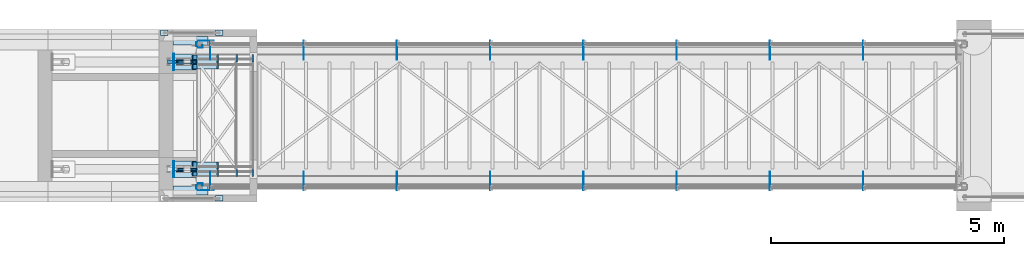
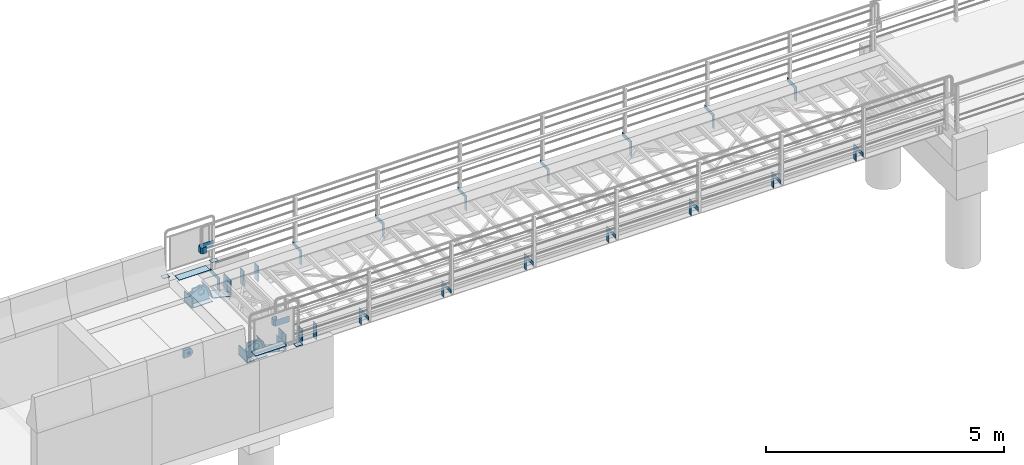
# One storey, part 28 of 31: 45 plates.
"""IFC2X3 building model written with IfcOpenShell, lengths in millimetres."""

from ifc_helpers import new_model, si_unit, frame, origin_with_axes, place, context, subcontext, project, spatial, faceted_brep, material, type_object, element, save


model = new_model("IFC2X3")

# Units and contexts
model_context = context("Model", 3, precision=1e-05, world=origin_with_axes())
body_context = subcontext(model_context, "Body", "Model", "MODEL_VIEW")
ifc_project = project(units=[si_unit("LENGTHUNIT", "METRE", prefix="MILLI"), si_unit("AREAUNIT", "SQUARE_METRE"), si_unit("VOLUMEUNIT", "CUBIC_METRE"), si_unit("MASSUNIT", "GRAM", prefix="KILO"), si_unit("TIMEUNIT", "SECOND"), si_unit("PLANEANGLEUNIT", "RADIAN"), si_unit("SOLIDANGLEUNIT", "STERADIAN"), si_unit("THERMODYNAMICTEMPERATUREUNIT", "DEGREE_CELSIUS"), si_unit("LUMINOUSINTENSITYUNIT", "LUMEN")], contexts=[model_context])

# Site, building, storey
site_placement = place(None, origin_with_axes())
site = spatial("IfcSite", under=ifc_project, at=site_placement, Name="Undefined", CompositionType="ELEMENT")
building_placement = place(site_placement, origin_with_axes())
building = spatial("IfcBuilding", under=site, at=building_placement, Name="Undefined", CompositionType="ELEMENT")
storey_placement = place(building_placement, origin_with_axes())
storey = spatial("IfcBuildingStorey", under=building, at=storey_placement, Name="Undefined", CompositionType="ELEMENT", Elevation=0.0)

# Plates
ifc_material_1 = material(Name="STEEL/S355J2+N")
plate_type_1 = type_object("IfcPlateType", Name="PL20*300", PredefinedType="NOTDEFINED")
plate_1_placement = place(storey_placement, frame((3009.58022876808, -150.0, 2.86691763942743), z_axis=(0.0, 1.0, 0.0), x_axis=(0.286691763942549, 0.0, -0.958022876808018)))
element("IfcPlate", 1, at=plate_1_placement, inside=storey, type_object=plate_type_1, material=ifc_material_1, Name="PLATE", context=body_context, shape_type="Brep", body=[
    faceted_brep([(21.920144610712, 10.0, 0.0), (27.9052159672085, -10.0000000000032, 0.0), (27.9052159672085, -10.0000000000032, 300.0), (21.920144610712, 10.0, 300.0), (337.179167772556, -10.0000000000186, 300.0), (325.678657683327, 9.99999999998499, 300.0), (325.678657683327, 9.99999999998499, 0.0), (337.179167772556, -10.0000000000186, 0.0)], [[[0, 1, 2, 3]], [[3, 2, 4, 5]], [[0, 3, 5, 6]], [[1, 0, 6, 7]], [[2, 1, 7, 4]], [[6, 5, 4, 7]]]),
])
plate_2_placement = place(storey_placement, frame((3107.23214016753, -149.999999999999, -325.544706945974), z_axis=(0.0, 1.0, 0.0), x_axis=(0.973420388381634, 0.0, -0.229025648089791)))
element("IfcPlate", 2, at=plate_2_placement, inside=storey, type_object=plate_type_1, material=ifc_material_1, Name="PLATE", context=body_context, shape_type="Brep", body=[
    faceted_brep([(-9.09494701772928e-13, -9.99999999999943, 0.0), (1.36424205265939e-12, 9.99999999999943, 0.0), (457.210596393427, 9.99999999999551, -4.94821961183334e-11), (452.505010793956, -10.0000000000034, -4.89706053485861e-11), (5.00222085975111e-11, -9.99999999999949, 299.999999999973), (452.505010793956, -10.0000000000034, 299.999999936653), (5.22959453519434e-11, 9.99999999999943, 299.999999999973), (457.210596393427, 9.99999999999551, 299.999999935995)], [[[0, 1, 2, 3]], [[4, 0, 3, 5]], [[6, 4, 5, 7]], [[3, 2, 7, 5]], [[1, 6, 7, 2]], [[0, 4, 6, 1]]]),
])
plate_3_placement = place(storey_placement, frame((3009.58022876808, 2150.0, 2.86691763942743), z_axis=(0.0, 1.0, 0.0), x_axis=(0.286691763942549, 0.0, -0.958022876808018)))
element("IfcPlate", 3, at=plate_3_placement, inside=storey, type_object=plate_type_1, material=ifc_material_1, Name="PLATE", context=body_context, shape_type="Brep", body=[
    faceted_brep([(21.920144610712, 10.0, 0.0), (27.9052159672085, -10.0000000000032, 0.0), (27.9052159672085, -10.0000000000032, 300.0), (21.920144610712, 10.0, 300.0), (337.179167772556, -10.0000000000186, 300.0), (325.678657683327, 9.99999999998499, 300.0), (325.678657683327, 9.99999999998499, 0.0), (337.179167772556, -10.0000000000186, 0.0)], [[[0, 1, 2, 3]], [[3, 2, 4, 5]], [[0, 3, 5, 6]], [[1, 0, 6, 7]], [[2, 1, 7, 4]], [[6, 5, 4, 7]]]),
])
plate_4_placement = place(storey_placement, frame((3107.23214016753, 2150.0, -325.544706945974), z_axis=(0.0, 1.0, 0.0), x_axis=(0.973420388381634, 0.0, -0.229025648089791)))
element("IfcPlate", 4, at=plate_4_placement, inside=storey, type_object=plate_type_1, material=ifc_material_1, Name="PLATE", context=body_context, shape_type="Brep", body=[
    faceted_brep([(-9.09494701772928e-13, -9.99999999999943, 0.0), (1.36424205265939e-12, 9.99999999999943, 0.0), (457.210596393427, 9.99999999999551, -4.94821961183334e-11), (452.505010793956, -10.0000000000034, -4.89706053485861e-11), (5.00222085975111e-11, -9.99999999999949, 299.999999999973), (452.505010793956, -10.0000000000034, 299.999999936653), (5.22959453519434e-11, 9.99999999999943, 299.999999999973), (457.210596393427, 9.99999999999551, 299.999999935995)], [[[0, 1, 2, 3]], [[4, 0, 3, 5]], [[6, 4, 5, 7]], [[3, 2, 7, 5]], [[1, 6, 7, 2]], [[0, 4, 6, 1]]]),
])
plate_type_2 = type_object("IfcPlateType", Name="PL74*205", PredefinedType="NOTDEFINED")
plate_5_placement = place(storey_placement, frame((2700.0, 2300.0, -1722.19), z_axis=(-1.0, 0.0, 0.0), x_axis=(0.0, 0.0, 1.0)))
element("IfcPlate", 5, at=plate_5_placement, inside=storey, type_object=plate_type_2, material=ifc_material_1, Name="SYLINDER", context=body_context, shape_type="Brep", body=[
    faceted_brep([(138.695181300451, -37.0, 84.6926627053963), (138.695181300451, 37.0, 84.6926627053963), (130.024271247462, 37.0, 71.7157287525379), (130.024271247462, -37.0, 71.7157287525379), (117.047337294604, 37.0, 63.0448186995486), (117.047337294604, -37.0, 63.0448186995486), (101.74, 37.0, 60.0), (101.74, -37.0, 60.0), (86.4326627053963, 37.0, 63.0448186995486), (86.4326627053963, -37.0, 63.0448186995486), (73.4557287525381, 37.0, 71.7157287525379), (73.4557287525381, -37.0, 71.7157287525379), (64.7848186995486, 37.0, 84.6926627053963), (64.7848186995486, -37.0, 84.6926627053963), (61.74, 37.0, 100.0), (61.74, -37.0, 100.0), (64.7848186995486, 37.0, 115.307337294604), (64.7848186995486, -37.0, 115.307337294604), (73.4557287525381, 37.0, 128.284271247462), (73.4557287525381, -37.0, 128.284271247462), (86.4326627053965, 37.0, 136.955181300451), (86.4326627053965, -37.0, 136.955181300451), (101.74, 37.0, 140.0), (101.74, -37.0, 140.0), (117.047337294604, 37.0, 136.955181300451), (117.047337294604, -37.0, 136.955181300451), (130.024271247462, 37.0, 128.284271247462), (130.024271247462, -37.0, 128.284271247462), (138.695181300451, 37.0, 115.307337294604), (138.695181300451, -37.0, 115.307337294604), (141.74, 37.0, 100.0), (141.74, -37.0, 100.0), (7.61204674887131, -37.0, 61.7316567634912), (29.2893218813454, -37.0, 29.2893218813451), (61.7316567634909, -37.0, 7.61204674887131), (100.0, -37.0, 0.0), (105.0, -37.0, 0.0), (143.268343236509, -37.0, 7.61204674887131), (175.710678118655, -37.0, 29.2893218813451), (197.387953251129, -37.0, 61.7316567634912), (205.0, -37.0, 100.0), (205.0, -37.0, 218.0), (0.0, -37.0, 218.0), (0.0, -37.0, 100.0), (0.0, 37.0, 100.0), (7.61204674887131, 37.0, 61.7316567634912), (29.2893218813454, 37.0, 29.2893218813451), (61.7316567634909, 37.0, 7.61204674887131), (100.0, 37.0, 0.0), (105.0, 37.0, 0.0), (143.268343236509, 37.0, 7.61204674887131), (175.710678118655, 37.0, 29.2893218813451), (197.387953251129, 37.0, 61.7316567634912), (205.0, 37.0, 100.0), (205.0, 37.0, 218.0), (0.0, 37.0, 218.0)], [[[0, 1, 2, 3]], [[3, 2, 4, 5]], [[5, 4, 6, 7]], [[7, 6, 8, 9]], [[9, 8, 10, 11]], [[11, 10, 12, 13]], [[13, 12, 14, 15]], [[15, 14, 16, 17]], [[17, 16, 18, 19]], [[19, 18, 20, 21]], [[21, 20, 22, 23]], [[23, 22, 24, 25]], [[25, 24, 26, 27]], [[27, 26, 28, 29]], [[29, 28, 30, 31]], [[31, 30, 1, 0]], [[32, 33, 34, 35, 36, 37, 38, 39, 40, 41, 42, 43], [3, 5, 7, 9, 11, 13, 15, 17, 19, 21, 23, 25, 27, 29, 31, 0]], [[32, 43, 44, 45]], [[33, 32, 45, 46]], [[34, 33, 46, 47]], [[35, 34, 47, 48]], [[36, 35, 48, 49]], [[37, 36, 49, 50]], [[38, 37, 50, 51]], [[39, 38, 51, 52]], [[40, 39, 52, 53]], [[41, 40, 53, 54]], [[42, 41, 54, 55]], [[43, 42, 55, 44]], [[54, 53, 52, 51, 50, 49, 48, 47, 46, 45, 44, 55], [26, 24, 22, 20, 18, 16, 14, 12, 10, 8, 6, 4, 2, 1, 30, 28]]]),
])
plate_type_3 = type_object("IfcPlateType", Name="PL20*350", PredefinedType="NOTDEFINED")
for number, where, z_axis, x_axis in (
    (6, (2600.0, -175.0, -390.0), (0.0, 1.0, 0.0), (1.0, 0.0, 0.0)),
    (7, (2600.0, 2125.0, -390.0), (0.0, 1.0, 0.0), (1.0, 0.0, 0.0)),
):
    element("IfcPlate", number, at=place(storey_placement, frame(where, z_axis=z_axis, x_axis=x_axis)), inside=storey, type_object=plate_type_3, material=ifc_material_1, Name="INNFESTING", context=body_context, shape_type="Brep", body=[
        faceted_brep([(-9.09494701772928e-13, -9.99999999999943, 0.0), (0.0, -10.0, 350.0), (0.0, 10.0, 350.0), (1.36424205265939e-12, 9.99999999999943, 0.0), (500.0, -10.0, 350.0), (500.0, 10.0, 350.0), (500.0, -10.0, 0.0), (500.0, 10.0, 0.0)], [[[0, 1, 2, 3]], [[1, 4, 5, 2]], [[4, 6, 7, 5]], [[6, 0, 3, 7]], [[5, 7, 3, 2]], [[6, 4, 1, 0]]]),
    ])
plate_type_4 = type_object("IfcPlateType", Name="PL40*291", PredefinedType="NOTDEFINED")
for number, where, z_axis, x_axis, name in (
    (8, (3093.36938884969, 0.0, -312.007604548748), (-0.958022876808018, 0.0, -0.286691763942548), (-0.286691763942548, 0.0, 0.958022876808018), "PLATE"),
    (9, (3093.36938884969, 2300.0, -312.007604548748), (-0.958022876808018, 0.0, -0.286691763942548), (-0.286691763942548, 0.0, 0.958022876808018), "PLATE"),
):
    element("IfcPlate", number, at=place(storey_placement, frame(where, z_axis=z_axis, x_axis=x_axis)), inside=storey, type_object=plate_type_4, material=ifc_material_1, Name=name, context=body_context, shape_type="Brep", body=[
        faceted_brep([(0.0, -20.0, -4.54747350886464e-13), (201.444360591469, -20.0, 350.322479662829), (201.444360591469, 20.0, 350.322479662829), (0.0, 20.0, -4.54747350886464e-13), (391.56770645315, -20.0, 293.427390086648), (391.56770645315, 20.0, 293.427390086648), (303.758513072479, -20.0, 3.86535248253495e-11), (303.758513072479, 20.0, 3.86535248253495e-11)], [[[0, 1, 2, 3]], [[1, 4, 5, 2]], [[4, 6, 7, 5]], [[6, 0, 3, 7]], [[5, 7, 3, 2]], [[6, 4, 1, 0]]]),
    ])
plate_type_5 = type_object("IfcPlateType", Name="PL10*190", PredefinedType="NOTDEFINED")
for number, where, z_axis, x_axis in (
    (10, (2600.0, -360.0, 5.0), (1.0, 0.0, 0.0), (0.0, -1.0, 0.0)),
    (11, (2600.0, 2850.0, 5.0), (1.0, 0.0, 0.0), (0.0, -1.0, 0.0)),
):
    element("IfcPlate", number, at=place(storey_placement, frame(where, z_axis=z_axis, x_axis=x_axis)), inside=storey, type_object=plate_type_5, material=ifc_material_1, Name="OVERGANGSPLATE", context=body_context, shape_type="Brep", body=[
        faceted_brep([(0.0, -5.0, 0.0), (0.0, -5.0, 750.0), (0.0, 5.0, 750.0), (0.0, 5.0, 0.0), (190.0, -5.0, 750.0), (190.0, 5.0, 750.0), (190.0, -5.0, 0.0), (190.0, 5.0, 0.0)], [[[0, 1, 2, 3]], [[1, 4, 5, 2]], [[4, 6, 7, 5]], [[6, 0, 3, 7]], [[5, 7, 3, 2]], [[6, 4, 1, 0]]]),
    ])
plate_type_6 = type_object("IfcPlateType", Name="PL155*150", PredefinedType="NOTDEFINED")
for number, where, z_axis, x_axis in (
    (12, (3225.0, -355.0, 600.5), (1.0, 0.0, 0.0), (0.0, 1.0, 0.0)),
    (13, (3225.0, 2655.0, 600.5), (1.0, 0.0, 0.0), (0.0, -1.0, 0.0)),
):
    element("IfcPlate", number, at=place(storey_placement, frame(where, z_axis=z_axis, x_axis=x_axis)), inside=storey, type_object=plate_type_6, material=ifc_material_1, Name="FØRINGSSKINNE", context=body_context, shape_type="Brep", body=[
        faceted_brep([(0.0, -77.5, 0.0), (0.0, -77.5, 5.0), (0.0, 77.5, 5.0), (0.0, 77.5, 0.0), (50.0000001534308, -77.5, 5.0), (50.0000001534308, 77.5, 5.0), (50.0, -77.5, -90.0000050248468), (50.0, 77.5, -90.0000050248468), (14.9997236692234, -77.5, -125.000281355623), (14.9997236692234, 77.5, -125.000281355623), (-64.9697186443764, -77.5, -125.000276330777), (-64.9697186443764, 77.5, -125.000276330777), (-100.0, -77.5, -89.969994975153), (-100.0, 77.5, -89.969994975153), (-100.0, -77.5, 250.000005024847), (-100.0, 77.5, 250.000005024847), (-95.0, -77.5, 250.000005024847), (-95.0, 77.5, 250.000005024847), (-95.0, -77.5, -87.8899949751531), (-95.0, 77.5, -87.8899949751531), (-62.889998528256, -77.5, -119.999996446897), (-62.889998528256, 77.5, -119.999996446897), (12.930008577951, -77.5, -119.999996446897), (12.930008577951, 77.5, -119.999996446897), (45.0, -77.5, -87.930005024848), (45.0, 77.5, -87.930005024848), (45.0, -77.5, 0.0), (45.0, 77.5, 0.0)], [[[0, 1, 2, 3]], [[1, 4, 5, 2]], [[4, 6, 7, 5]], [[6, 8, 9, 7]], [[8, 10, 11, 9]], [[10, 12, 13, 11]], [[12, 14, 15, 13]], [[14, 16, 17, 15]], [[16, 18, 19, 17]], [[18, 20, 21, 19]], [[20, 22, 23, 21]], [[22, 24, 25, 23]], [[24, 26, 27, 25]], [[26, 0, 3, 27]], [[5, 7, 9, 11, 13, 15, 17, 19, 21, 23, 25, 27, 3, 2]], [[26, 24, 22, 20, 18, 16, 14, 12, 10, 8, 6, 4, 1, 0]]]),
    ])
plate_type_7 = type_object("IfcPlateType", Name="PL15*120", PredefinedType="NOTDEFINED")
plate_6_placement = place(storey_placement, frame((3504.80600881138, -565.00000013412, 7.5), z_axis=(0.999999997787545, 6.65199999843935e-05, 0.0), x_axis=(6.65199999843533e-05, -0.999999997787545, 0.0)))
element("IfcPlate", 14, at=plate_6_placement, inside=storey, type_object=plate_type_7, material=ifc_material_1, Name="LKREKKVERK", context=body_context, shape_type="Brep", body=[
    faceted_brep([(1.13686837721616e-13, -7.5, 0.0), (0.0106432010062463, -7.5, 159.999999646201), (0.0106432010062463, 7.5, 159.999999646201), (1.13686837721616e-13, 7.5, 0.0), (120.010643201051, -7.5, 159.999999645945), (120.010643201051, 7.5, 159.999999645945), (120.000000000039, -7.5, -1.04591890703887e-11), (120.000000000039, 7.5, -1.04591890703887e-11)], [[[0, 1, 2, 3]], [[1, 4, 5, 2]], [[4, 6, 7, 5]], [[6, 0, 3, 7]], [[5, 7, 3, 2]], [[6, 4, 1, 0]]]),
])
ifc_material_2 = material(Name="STEEL/S235JR")
for number, where, z_axis, x_axis in (
    (15, (2329.65600881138, 2984.99999986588, 7.5), (0.999999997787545, 6.65199999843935e-05, 0.0), (6.65199999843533e-05, -0.999999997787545, 0.0)),
    (16, (3504.80600881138, 2984.99999986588, 7.5), (0.999999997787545, 6.65199999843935e-05, 0.0), (6.65199999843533e-05, -0.999999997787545, 0.0)),
):
    element("IfcPlate", number, at=place(storey_placement, frame(where, z_axis=z_axis, x_axis=x_axis)), inside=storey, type_object=plate_type_7, material=ifc_material_2, Name="LKREKKVERK", context=body_context, shape_type="Brep", body=[
        faceted_brep([(1.13686837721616e-13, -7.5, 0.0), (0.0106432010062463, -7.5, 159.999999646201), (0.0106432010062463, 7.5, 159.999999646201), (1.13686837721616e-13, 7.5, 0.0), (120.010643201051, -7.5, 159.999999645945), (120.010643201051, 7.5, 159.999999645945), (120.000000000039, -7.5, -1.04591890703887e-11), (120.000000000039, 7.5, -1.04591890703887e-11)], [[[0, 1, 2, 3]], [[1, 4, 5, 2]], [[4, 6, 7, 5]], [[6, 0, 3, 7]], [[5, 7, 3, 2]], [[6, 4, 1, 0]]]),
    ])
plate_type_8 = type_object("IfcPlateType", Name="PL20*355", PredefinedType="NOTDEFINED")
plate_7_placement = place(storey_placement, frame((2620.0, -42.5, -150.0), z_axis=(1.0, 0.0, 0.0), x_axis=(0.0, 0.0, -1.0)))
element("IfcPlate", 17, at=plate_7_placement, inside=storey, type_object=plate_type_8, material=ifc_material_1, Name="INNFESTING", context=body_context, shape_type="Brep", body=[
    faceted_brep([(72.4444369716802, -10.0, 260.588571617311), (72.4444369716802, 10.0, 260.588571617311), (64.951905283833, 10.0, 242.5), (64.951905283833, -10.0, 242.5), (53.0330085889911, 10.0, 226.966991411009), (53.0330085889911, -10.0, 226.966991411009), (37.5000000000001, 10.0, 215.048094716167), (37.5000000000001, -10.0, 215.048094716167), (19.4114283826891, 10.0, 207.55556302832), (19.4114283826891, -10.0, 207.55556302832), (5.6843418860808e-14, 10.0, 205.0), (5.6843418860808e-14, -10.0, 205.0), (-19.4114283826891, 10.0, 207.55556302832), (-19.4114283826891, -10.0, 207.55556302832), (-37.5, 10.0, 215.048094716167), (-37.5, -10.0, 215.048094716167), (-53.033008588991, 10.0, 226.966991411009), (-53.033008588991, -10.0, 226.966991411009), (-64.9519052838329, 10.0, 242.5), (-64.9519052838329, -10.0, 242.5), (-72.4444369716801, 10.0, 260.588571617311), (-72.4444369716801, -10.0, 260.588571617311), (-74.9999999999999, 10.0, 280.0), (-74.9999999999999, -10.0, 280.0), (-72.44443697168, 10.0, 299.411428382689), (-72.44443697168, -10.0, 299.411428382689), (-64.9519052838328, 10.0, 317.5), (-64.9519052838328, -10.0, 317.5), (-53.033008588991, 10.0, 333.033008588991), (-53.033008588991, -10.0, 333.033008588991), (-37.4999999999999, 10.0, 344.951905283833), (-37.4999999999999, -10.0, 344.951905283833), (-19.411428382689, 10.0, 352.44443697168), (-19.411428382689, -10.0, 352.44443697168), (5.6843418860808e-14, 10.0, 355.0), (5.6843418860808e-14, -10.0, 355.0), (19.4114283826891, 10.0, 352.44443697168), (19.4114283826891, -10.0, 352.44443697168), (37.5000000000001, 10.0, 344.951905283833), (37.5000000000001, -10.0, 344.951905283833), (53.0330085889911, 10.0, 333.033008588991), (53.0330085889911, -10.0, 333.033008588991), (64.951905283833, 10.0, 317.5), (64.951905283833, -10.0, 317.5), (72.4444369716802, 10.0, 299.411428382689), (72.4444369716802, -10.0, 299.411428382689), (75.0000000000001, 10.0, 280.0), (75.0000000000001, -10.0, 280.0), (230.0, -10.0, 0.0), (230.0, -10.0, 480.0), (-36.03196229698, -10.0, 399.489039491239), (-83.0624582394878, -10.0, 373.102368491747), (-114.600655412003, -10.0, 329.359185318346), (-124.776666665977, -10.0, 276.40096829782), (-111.696533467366, -10.0, 224.084297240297), (-9.09494701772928e-13, -9.99999999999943, 0.0), (1.36424205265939e-12, 9.99999999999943, 0.0), (230.0, 10.0, 0.0), (230.0, 10.0, 480.0), (-36.03196229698, 10.0, 399.489039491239), (-83.0624582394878, 10.0, 373.102368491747), (-114.600655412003, 10.0, 329.359185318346), (-124.776666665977, 10.0, 276.40096829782), (-111.696533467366, 10.0, 224.084297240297)], [[[0, 1, 2, 3]], [[3, 2, 4, 5]], [[5, 4, 6, 7]], [[7, 6, 8, 9]], [[9, 8, 10, 11]], [[11, 10, 12, 13]], [[13, 12, 14, 15]], [[15, 14, 16, 17]], [[17, 16, 18, 19]], [[19, 18, 20, 21]], [[21, 20, 22, 23]], [[23, 22, 24, 25]], [[25, 24, 26, 27]], [[27, 26, 28, 29]], [[29, 28, 30, 31]], [[31, 30, 32, 33]], [[33, 32, 34, 35]], [[35, 34, 36, 37]], [[37, 36, 38, 39]], [[39, 38, 40, 41]], [[41, 40, 42, 43]], [[43, 42, 44, 45]], [[45, 44, 46, 47]], [[47, 46, 1, 0]], [[48, 49, 50, 51, 52, 53, 54, 55], [3, 5, 7, 9, 11, 13, 15, 17, 19, 21, 23, 25, 27, 29, 31, 33, 35, 37, 39, 41, 43, 45, 47, 0]], [[48, 55, 56, 57]], [[49, 48, 57, 58]], [[50, 49, 58, 59]], [[51, 50, 59, 60]], [[52, 51, 60, 61]], [[53, 52, 61, 62]], [[54, 53, 62, 63]], [[55, 54, 63, 56]], [[62, 61, 60, 59, 58, 57, 56, 63], [42, 40, 38, 36, 34, 32, 30, 28, 26, 24, 22, 20, 18, 16, 14, 12, 10, 8, 6, 4, 2, 1, 46, 44]]]),
])
plate_8_placement = place(storey_placement, frame((2620.0, 2342.5, -150.0), z_axis=(1.0, 0.0, 0.0), x_axis=(0.0, 0.0, -1.0)))
element("IfcPlate", 18, at=plate_8_placement, inside=storey, type_object=plate_type_8, material=ifc_material_1, Name="INNFESTING", context=body_context, shape_type="Brep", body=[
    faceted_brep([(72.4444369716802, -10.0, 260.588571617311), (72.4444369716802, 10.0, 260.588571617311), (64.951905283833, 10.0, 242.5), (64.951905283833, -10.0, 242.5), (53.0330085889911, 10.0, 226.966991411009), (53.0330085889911, -10.0, 226.966991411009), (37.5000000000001, 10.0, 215.048094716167), (37.5000000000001, -10.0, 215.048094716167), (19.4114283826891, 10.0, 207.55556302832), (19.4114283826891, -10.0, 207.55556302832), (5.6843418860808e-14, 10.0, 205.0), (5.6843418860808e-14, -10.0, 205.0), (-19.4114283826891, 10.0, 207.55556302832), (-19.4114283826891, -10.0, 207.55556302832), (-37.5, 10.0, 215.048094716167), (-37.5, -10.0, 215.048094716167), (-53.033008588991, 10.0, 226.966991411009), (-53.033008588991, -10.0, 226.966991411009), (-64.9519052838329, 10.0, 242.5), (-64.9519052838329, -10.0, 242.5), (-72.4444369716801, 10.0, 260.588571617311), (-72.4444369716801, -10.0, 260.588571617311), (-74.9999999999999, 10.0, 280.0), (-74.9999999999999, -10.0, 280.0), (-72.44443697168, 10.0, 299.411428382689), (-72.44443697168, -10.0, 299.411428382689), (-64.9519052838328, 10.0, 317.5), (-64.9519052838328, -10.0, 317.5), (-53.033008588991, 10.0, 333.033008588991), (-53.033008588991, -10.0, 333.033008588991), (-37.4999999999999, 10.0, 344.951905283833), (-37.4999999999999, -10.0, 344.951905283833), (-19.411428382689, 10.0, 352.44443697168), (-19.411428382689, -10.0, 352.44443697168), (5.6843418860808e-14, 10.0, 355.0), (5.6843418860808e-14, -10.0, 355.0), (19.4114283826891, 10.0, 352.44443697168), (19.4114283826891, -10.0, 352.44443697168), (37.5000000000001, 10.0, 344.951905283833), (37.5000000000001, -10.0, 344.951905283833), (53.0330085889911, 10.0, 333.033008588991), (53.0330085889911, -10.0, 333.033008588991), (64.951905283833, 10.0, 317.5), (64.951905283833, -10.0, 317.5), (72.4444369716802, 10.0, 299.411428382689), (72.4444369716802, -10.0, 299.411428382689), (75.0000000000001, 10.0, 280.0), (75.0000000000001, -10.0, 280.0), (230.0, -10.0, 0.0), (230.0, -10.0, 480.0), (-36.03196229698, -10.0, 399.489039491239), (-83.0624582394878, -10.0, 373.102368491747), (-114.600655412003, -10.0, 329.359185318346), (-124.776666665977, -10.0, 276.40096829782), (-111.696533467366, -10.0, 224.084297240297), (-9.09494701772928e-13, -9.99999999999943, 0.0), (1.36424205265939e-12, 9.99999999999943, 0.0), (230.0, 10.0, 0.0), (230.0, 10.0, 480.0), (-36.03196229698, 10.0, 399.489039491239), (-83.0624582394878, 10.0, 373.102368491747), (-114.600655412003, 10.0, 329.359185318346), (-124.776666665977, 10.0, 276.40096829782), (-111.696533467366, 10.0, 224.084297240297)], [[[0, 1, 2, 3]], [[3, 2, 4, 5]], [[5, 4, 6, 7]], [[7, 6, 8, 9]], [[9, 8, 10, 11]], [[11, 10, 12, 13]], [[13, 12, 14, 15]], [[15, 14, 16, 17]], [[17, 16, 18, 19]], [[19, 18, 20, 21]], [[21, 20, 22, 23]], [[23, 22, 24, 25]], [[25, 24, 26, 27]], [[27, 26, 28, 29]], [[29, 28, 30, 31]], [[31, 30, 32, 33]], [[33, 32, 34, 35]], [[35, 34, 36, 37]], [[37, 36, 38, 39]], [[39, 38, 40, 41]], [[41, 40, 42, 43]], [[43, 42, 44, 45]], [[45, 44, 46, 47]], [[47, 46, 1, 0]], [[48, 49, 50, 51, 52, 53, 54, 55], [3, 5, 7, 9, 11, 13, 15, 17, 19, 21, 23, 25, 27, 29, 31, 33, 35, 37, 39, 41, 43, 45, 47, 0]], [[48, 55, 56, 57]], [[49, 48, 57, 58]], [[50, 49, 58, 59]], [[51, 50, 59, 60]], [[52, 51, 60, 61]], [[53, 52, 61, 62]], [[54, 53, 62, 63]], [[55, 54, 63, 56]], [[62, 61, 60, 59, 58, 57, 56, 63], [42, 40, 38, 36, 34, 32, 30, 28, 26, 24, 22, 20, 18, 16, 14, 12, 10, 8, 6, 4, 2, 1, 46, 44]]]),
])
plate_9_placement = place(storey_placement, frame((2620.0, 2257.5, -150.0), z_axis=(1.0, 0.0, 0.0), x_axis=(0.0, 0.0, -1.0)))
element("IfcPlate", 19, at=plate_9_placement, inside=storey, type_object=plate_type_8, material=ifc_material_1, Name="INNFESTING", context=body_context, shape_type="Brep", body=[
    faceted_brep([(72.4444369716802, -10.0, 260.588571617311), (72.4444369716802, 10.0, 260.588571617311), (64.951905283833, 10.0, 242.5), (64.951905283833, -10.0, 242.5), (53.0330085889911, 10.0, 226.966991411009), (53.0330085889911, -10.0, 226.966991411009), (37.5000000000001, 10.0, 215.048094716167), (37.5000000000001, -10.0, 215.048094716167), (19.4114283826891, 10.0, 207.55556302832), (19.4114283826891, -10.0, 207.55556302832), (5.6843418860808e-14, 10.0, 205.0), (5.6843418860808e-14, -10.0, 205.0), (-19.4114283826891, 10.0, 207.55556302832), (-19.4114283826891, -10.0, 207.55556302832), (-37.5, 10.0, 215.048094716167), (-37.5, -10.0, 215.048094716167), (-53.033008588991, 10.0, 226.966991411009), (-53.033008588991, -10.0, 226.966991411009), (-64.9519052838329, 10.0, 242.5), (-64.9519052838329, -10.0, 242.5), (-72.4444369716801, 10.0, 260.588571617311), (-72.4444369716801, -10.0, 260.588571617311), (-74.9999999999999, 10.0, 280.0), (-74.9999999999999, -10.0, 280.0), (-72.44443697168, 10.0, 299.411428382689), (-72.44443697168, -10.0, 299.411428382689), (-64.9519052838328, 10.0, 317.5), (-64.9519052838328, -10.0, 317.5), (-53.033008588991, 10.0, 333.033008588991), (-53.033008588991, -10.0, 333.033008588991), (-37.4999999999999, 10.0, 344.951905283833), (-37.4999999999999, -10.0, 344.951905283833), (-19.411428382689, 10.0, 352.44443697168), (-19.411428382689, -10.0, 352.44443697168), (5.6843418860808e-14, 10.0, 355.0), (5.6843418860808e-14, -10.0, 355.0), (19.4114283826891, 10.0, 352.44443697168), (19.4114283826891, -10.0, 352.44443697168), (37.5000000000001, 10.0, 344.951905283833), (37.5000000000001, -10.0, 344.951905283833), (53.0330085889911, 10.0, 333.033008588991), (53.0330085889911, -10.0, 333.033008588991), (64.951905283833, 10.0, 317.5), (64.951905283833, -10.0, 317.5), (72.4444369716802, 10.0, 299.411428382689), (72.4444369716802, -10.0, 299.411428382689), (75.0000000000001, 10.0, 280.0), (75.0000000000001, -10.0, 280.0), (230.0, -10.0, 0.0), (230.0, -10.0, 480.0), (-36.03196229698, -10.0, 399.489039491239), (-83.0624582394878, -10.0, 373.102368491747), (-114.600655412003, -10.0, 329.359185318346), (-124.776666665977, -10.0, 276.40096829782), (-111.696533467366, -10.0, 224.084297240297), (-9.09494701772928e-13, -9.99999999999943, 0.0), (1.36424205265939e-12, 9.99999999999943, 0.0), (230.0, 10.0, 0.0), (230.0, 10.0, 480.0), (-36.03196229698, 10.0, 399.489039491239), (-83.0624582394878, 10.0, 373.102368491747), (-114.600655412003, 10.0, 329.359185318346), (-124.776666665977, 10.0, 276.40096829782), (-111.696533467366, 10.0, 224.084297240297)], [[[0, 1, 2, 3]], [[3, 2, 4, 5]], [[5, 4, 6, 7]], [[7, 6, 8, 9]], [[9, 8, 10, 11]], [[11, 10, 12, 13]], [[13, 12, 14, 15]], [[15, 14, 16, 17]], [[17, 16, 18, 19]], [[19, 18, 20, 21]], [[21, 20, 22, 23]], [[23, 22, 24, 25]], [[25, 24, 26, 27]], [[27, 26, 28, 29]], [[29, 28, 30, 31]], [[31, 30, 32, 33]], [[33, 32, 34, 35]], [[35, 34, 36, 37]], [[37, 36, 38, 39]], [[39, 38, 40, 41]], [[41, 40, 42, 43]], [[43, 42, 44, 45]], [[45, 44, 46, 47]], [[47, 46, 1, 0]], [[48, 49, 50, 51, 52, 53, 54, 55], [3, 5, 7, 9, 11, 13, 15, 17, 19, 21, 23, 25, 27, 29, 31, 33, 35, 37, 39, 41, 43, 45, 47, 0]], [[48, 55, 56, 57]], [[49, 48, 57, 58]], [[50, 49, 58, 59]], [[51, 50, 59, 60]], [[52, 51, 60, 61]], [[53, 52, 61, 62]], [[54, 53, 62, 63]], [[55, 54, 63, 56]], [[62, 61, 60, 59, 58, 57, 56, 63], [42, 40, 38, 36, 34, 32, 30, 28, 26, 24, 22, 20, 18, 16, 14, 12, 10, 8, 6, 4, 2, 1, 46, 44]]]),
])
plate_type_9 = type_object("IfcPlateType", Name="PL20*230", PredefinedType="NOTDEFINED")
for number, where, z_axis, x_axis in (
    (20, (2610.0, -175.0, -150.0), (0.0, 1.0, 0.0), (0.0, 0.0, -1.0)),
    (21, (2610.0, 2125.0, -150.0), (0.0, 1.0, 0.0), (0.0, 0.0, -1.0)),
):
    element("IfcPlate", number, at=place(storey_placement, frame(where, z_axis=z_axis, x_axis=x_axis)), inside=storey, type_object=plate_type_9, material=ifc_material_1, Name="INNFESTING", context=body_context, shape_type="Brep", body=[
        faceted_brep([(-9.09494701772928e-13, -9.99999999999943, 0.0), (0.0, -10.0, 350.0), (0.0, 10.0, 350.0), (1.36424205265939e-12, 9.99999999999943, 0.0), (230.0, -10.0, 350.0), (230.0, 10.0, 350.0), (230.0, -10.0, 0.0), (230.0, 10.0, 0.0)], [[[0, 1, 2, 3]], [[1, 4, 5, 2]], [[4, 6, 7, 5]], [[6, 0, 3, 7]], [[5, 7, 3, 2]], [[6, 4, 1, 0]]]),
    ])
plate_type_10 = type_object("IfcPlateType", Name="PL5*363", PredefinedType="NOTDEFINED")
plate_10_placement = place(storey_placement, frame((3397.5, -50.0, -419.0), z_axis=(0.0, -0.00445724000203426, 0.999990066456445), x_axis=(0.0, -0.999990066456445, -0.00445724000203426)))
element("IfcPlate", 22, at=plate_10_placement, inside=storey, type_object=plate_type_10, material=ifc_material_1, Name="PLATE", context=body_context, shape_type="Brep", body=[
    faceted_brep([(-1.77398151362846, -2.5, 397.996046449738), (398.222045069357, -2.5, 399.778942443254), (398.222045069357, 2.5, 399.778942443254), (-1.77398151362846, 2.5, 397.996046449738), (398.667769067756, -2.5, 299.779935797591), (398.667769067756, 2.5, 299.779935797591), (98.6707491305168, -2.5, 298.442763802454), (98.6707491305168, 2.5, 298.442763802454), (99.8384418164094, -2.5, 36.4687415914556), (99.8436854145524, 2.5, 35.2923306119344), (-0.155321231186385, 2.5, 34.8466066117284), (-0.160564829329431, -2.5, 36.0230175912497)], [[[0, 1, 2, 3]], [[1, 4, 5, 2]], [[4, 6, 7, 5]], [[7, 6, 8, 9]], [[3, 2, 5, 7, 9, 10]], [[0, 3, 10, 11]], [[6, 4, 1, 0, 11, 8]], [[10, 9, 8, 11]]]),
])
plate_type_11 = type_object("IfcPlateType", Name="PL5*398", PredefinedType="NOTDEFINED")
for number, where, z_axis, x_axis, name in (
    (23, (5397.5, -50.0, -419.0), (0.0, -0.00445724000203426, 0.999990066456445), (0.0, -0.999990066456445, -0.00445724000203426), "PLATE"),
    (24, (7397.5, -50.0, -419.0), (0.0, -0.00445724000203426, 0.999990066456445), (0.0, -0.999990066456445, -0.00445724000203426), "PLATE"),
    (25, (9397.5, -50.0, -419.0), (0.0, -0.00445724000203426, 0.999990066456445), (0.0, -0.999990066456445, -0.00445724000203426), "PLATE"),
    (26, (11397.5, -50.0, -419.0), (0.0, -0.00445724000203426, 0.999990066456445), (0.0, -0.999990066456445, -0.00445724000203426), "PLATE"),
    (27, (13397.5, -50.0, -419.0), (0.0, -0.00445724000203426, 0.999990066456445), (0.0, -0.999990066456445, -0.00445724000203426), "PLATE"),
    (28, (15397.5, -50.0, -419.0), (0.0, -0.00445724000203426, 0.999990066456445), (0.0, -0.999990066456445, -0.00445724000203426), "PLATE"),
    (29, (17397.5, -50.0, -419.0), (0.0, -0.00445724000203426, 0.999990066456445), (0.0, -0.999990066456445, -0.00445724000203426), "PLATE"),
    (30, (5397.5, 2350.0, -419.0), (0.0, 0.00445724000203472, 0.999990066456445), (0.0, 0.999990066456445, -0.00445724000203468), "PLATE"),
    (31, (7397.5, 2350.0, -419.0), (0.0, 0.00445724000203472, 0.999990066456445), (0.0, 0.999990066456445, -0.00445724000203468), "PLATE"),
    (32, (9397.5, 2350.0, -419.0), (0.0, 0.00445724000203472, 0.999990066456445), (0.0, 0.999990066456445, -0.00445724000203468), "PLATE"),
    (33, (11397.5, 2350.0, -419.0), (0.0, 0.00445724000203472, 0.999990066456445), (0.0, 0.999990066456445, -0.00445724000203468), "PLATE"),
    (34, (13397.5, 2350.0, -419.0), (0.0, 0.00445724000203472, 0.999990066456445), (0.0, 0.999990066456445, -0.00445724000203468), "PLATE"),
    (35, (15397.5, 2350.0, -419.0), (0.0, 0.00445724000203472, 0.999990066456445), (0.0, 0.999990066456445, -0.00445724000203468), "PLATE"),
    (36, (17397.5, 2350.0, -419.0), (0.0, 0.00445724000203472, 0.999990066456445), (0.0, 0.999990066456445, -0.00445724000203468), "PLATE"),
):
    element("IfcPlate", number, at=place(storey_placement, frame(where, z_axis=z_axis, x_axis=x_axis)), inside=storey, type_object=plate_type_11, material=ifc_material_1, Name=name, context=body_context, shape_type="Brep", body=[
        faceted_brep([(-1.77398151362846, -2.5, 397.996046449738), (398.222045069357, -2.5, 399.778942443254), (398.222045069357, 2.5, 399.778942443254), (-1.77398151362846, 2.5, 397.996046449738), (398.667769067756, -2.5, 299.779935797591), (398.667769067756, 2.5, 299.779935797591), (98.6707491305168, -2.5, 298.442763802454), (98.6707491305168, 2.5, 298.442763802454), (99.999006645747, -2.5, 0.445723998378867), (99.999006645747, 2.5, 0.445723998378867), (0.0, -2.5, -5.6843418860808e-14), (0.0, 2.5, -5.6843418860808e-14)], [[[0, 1, 2, 3]], [[1, 4, 5, 2]], [[4, 6, 7, 5]], [[6, 8, 9, 7]], [[8, 10, 11, 9]], [[10, 10, 0, 3, 11]], [[2, 5, 7, 9, 11, 3]], [[10, 8, 6, 4, 1, 0, 10]]]),
    ])
plate_type_12 = type_object("IfcPlateType", Name="PL5*362", PredefinedType="NOTDEFINED")
plate_11_placement = place(storey_placement, frame((3397.5, 2350.0, -383.0), z_axis=(0.0, 0.00445724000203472, 0.999990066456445), x_axis=(0.0, 0.999990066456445, -0.00445724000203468)))
element("IfcPlate", 37, at=plate_11_placement, inside=storey, type_object=plate_type_12, material=ifc_material_1, Name="PLATE", context=body_context, shape_type="Brep", body=[
    faceted_brep([(0.0, -2.5, -5.6843418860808e-14), (-1.61352087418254, -2.5, 361.996404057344), (-1.61352087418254, 2.5, 361.996404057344), (0.0, 2.5, -5.6843418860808e-14), (398.382505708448, -2.5, 363.779300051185), (398.382505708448, 2.5, 363.779300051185), (398.828229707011, -2.5, 263.780293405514), (398.828229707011, 2.5, 263.780293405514), (98.8312097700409, -2.5, 262.443121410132), (98.8312097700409, 2.5, 262.443121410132), (99.999006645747, -2.5, 0.445723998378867), (99.999006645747, 2.5, 0.445723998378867)], [[[0, 1, 2, 3]], [[1, 4, 5, 2]], [[4, 6, 7, 5]], [[6, 8, 9, 7]], [[8, 10, 11, 9]], [[10, 0, 3, 11]], [[5, 7, 9, 11, 3, 2]], [[10, 8, 6, 4, 1, 0]]]),
])
plate_type_13 = type_object("IfcPlateType", Name="PL20*144", PredefinedType="NOTDEFINED")
for number, where, z_axis, x_axis, name in (
    (38, (3960.0, 2305.75, -21.0), (0.0, 1.0, 0.0), (0.0, 0.0, -1.0), "PLATE"),
    (39, (4310.0, 2305.75, -21.0), (0.0, 1.0, 0.0), (0.0, 0.0, -1.0), "PLATE"),
    (40, (3560.0, 2150.0, -21.0), (0.0, 1.0, 0.0), (0.0, 0.0, -1.0), "PLATE"),
    (41, (3560.0, 2305.75, -21.0), (0.0, 1.0, 0.0), (0.0, 0.0, -1.0), "PLATE"),
    (42, (3960.0, -150.0, -21.0), (0.0, 1.0, 0.0), (0.0, 0.0, -1.0), "PLATE"),
    (43, (4310.0, -150.0, -21.0), (0.0, 1.0, 0.0), (0.0, 0.0, -1.0), "PLATE"),
    (44, (3560.0, -150.0, -21.0), (0.0, 1.0, 0.0), (0.0, 0.0, -1.0), "PLATE"),
    (45, (3560.0, 5.75, -21.0), (0.0, 1.0, 0.0), (0.0, 0.0, -1.0), "PLATE"),
):
    element("IfcPlate", number, at=place(storey_placement, frame(where, z_axis=z_axis, x_axis=x_axis)), inside=storey, type_object=plate_type_13, material=ifc_material_1, Name=name, context=body_context, shape_type="Brep", body=[
        faceted_brep([(-9.09494701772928e-13, -9.99999999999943, 0.0), (0.0, -10.0, 144.25), (0.0, 10.0, 144.25), (1.36424205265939e-12, 9.99999999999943, 0.0), (398.0, -10.0, 144.25), (398.0, 10.0, 144.25), (398.0, -10.0, 0.0), (398.0, 10.0, 0.0)], [[[0, 1, 2, 3]], [[1, 4, 5, 2]], [[4, 6, 7, 5]], [[6, 0, 3, 7]], [[5, 7, 3, 2]], [[6, 4, 1, 0]]]),
    ])

save(model, "model.ifc")
